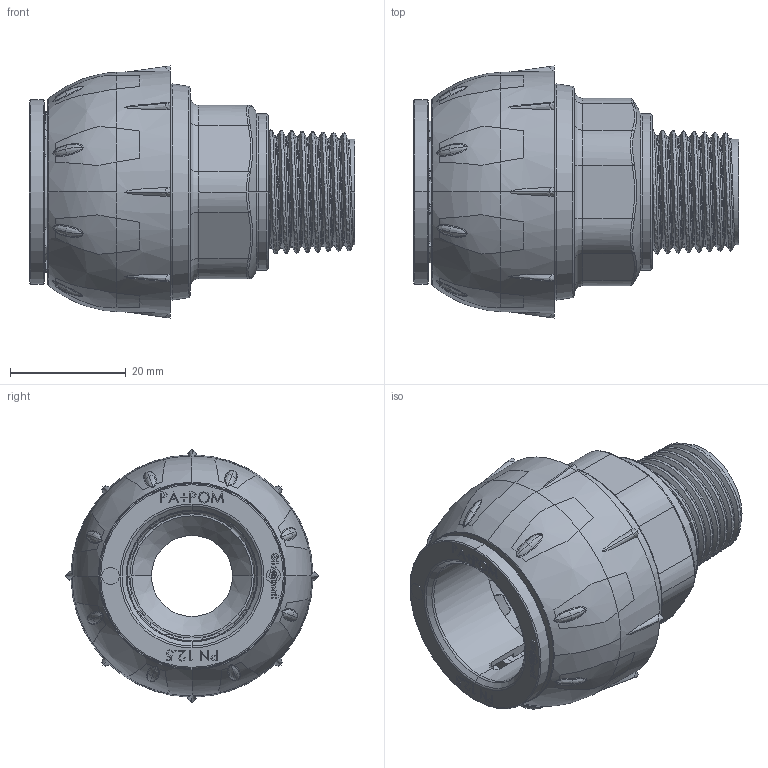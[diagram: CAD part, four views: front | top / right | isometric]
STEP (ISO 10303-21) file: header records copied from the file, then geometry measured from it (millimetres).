
FILE_DESCRIPTION (( 'STEP AP214' ), '1' );
FILE_NAME ('R211.022.012.STEP', '2019-10-24T14:24:27', ( '' ), ( '' ), 'SwSTEP 2.0', 'SolidWorks 2018', '' );
FILE_SCHEMA (( 'AUTOMOTIVE_DESIGN' ));
Length unit declared in the file: millimetre
Products named in the file (7): R211.022.012; R209.022.002; R216.022.000; R209.022.001; OR_21.5x2.5; R211.022.012-L; R209.022.003
Assembly tree (6 placements, depth 2):
  R211.022.012
    R211.022.012-L
    R209.022.001
    R209.022.002
    R209.022.003
    OR_21.5x2.5
    R216.022.000
Bounding box: 56.35 x 43.64 x 43.64 mm (x, y, z)
Volume: 24928.5 mm3; surface area: 22398.2 mm2
Topology: 6 solids, 6 shells, 1098 faces, 3228 edges, 2166 vertices
Faces by surface type: bspline 330, plane 288, cylinder 269, torus 117, cone 78, sphere 16
Entity records: 61870 total; most frequent: CARTESIAN_POINT 36047, ORIENTED_EDGE 6408, DIRECTION 3849, EDGE_CURVE 3204, VERTEX_POINT 2162, B_SPLINE_CURVE_WITH_KNOTS 1544, AXIS2_PLACEMENT_3D 1447, EDGE_LOOP 1154
